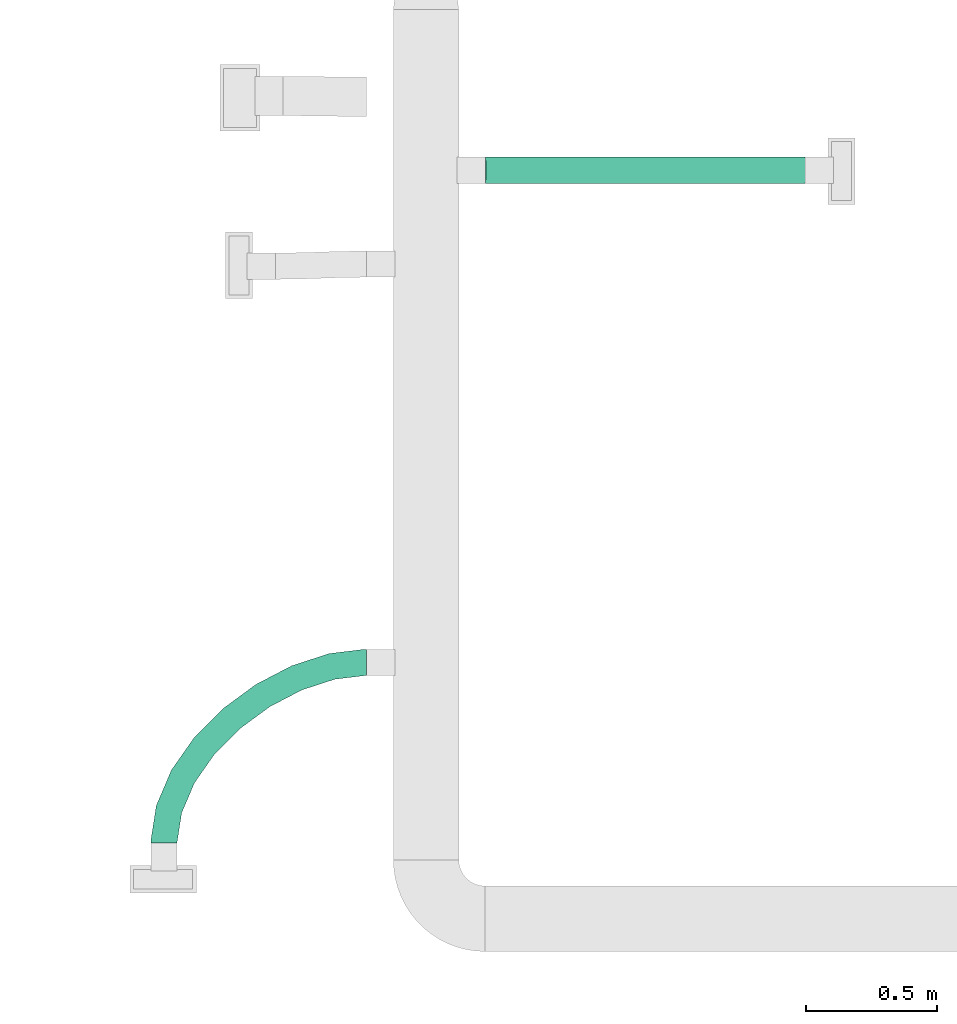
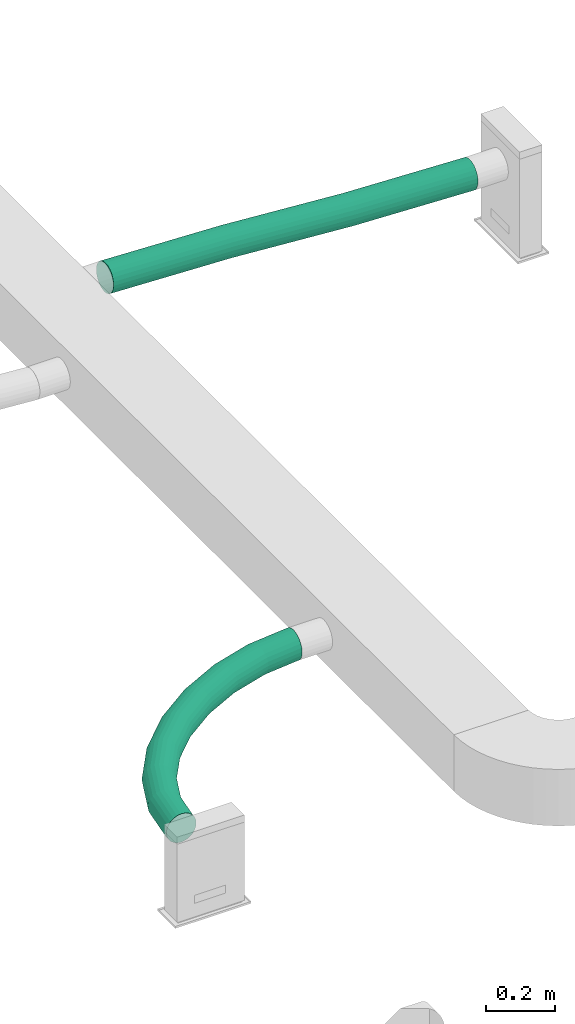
# One storey, part 35 of 60: 2 flow segments.
"""IFC2X3 building model written with IfcOpenShell, lengths in millimetres."""

from ifc_helpers import new_model, entity, si_unit, converted_unit, derived_unit, direction, frame, origin, place, context, subcontext, project, spatial, faceted_brep, type_object, element, save


model = new_model("IFC2X3")

# Units and contexts
model_context = context("Model", 3, precision=0.01, world=origin(), true_north=direction((6.123233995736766e-17, 1.0)))
body_context = subcontext(model_context, "Body", "Model", "MODEL_VIEW")
ifc_project = project(units=[si_unit("LENGTHUNIT", "METRE", prefix="MILLI"), converted_unit("PLANEANGLEUNIT", "DEGREE", entity("IfcPlaneAngleMeasure", 0.017453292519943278), si_unit("PLANEANGLEUNIT", "RADIAN"), dimensions=[0, 0, 0, 0, 0, 0, 0]), si_unit("AREAUNIT", "SQUARE_METRE"), derived_unit("THERMALTRANSMITTANCEUNIT", [(si_unit("MASSUNIT", "GRAM", prefix="KILO"), 1), (si_unit("THERMODYNAMICTEMPERATUREUNIT", "KELVIN"), -1), (si_unit("TIMEUNIT", "SECOND"), -3)])], contexts=[model_context])

# Site, building, storey
site_placement = place(None, origin())
site = spatial("IfcSite", under=ifc_project, at=site_placement, Name="Default", CompositionType="ELEMENT")
building_placement = place(site_placement, origin())
building = spatial("IfcBuilding", under=site, at=building_placement, Name="Praça Pedro II, 1301 - Centro (Sul), Teresina - PI, 64001-100", CompositionType="ELEMENT")
storey_placement = place(building_placement, frame((0.0, 0.0, 6040.0)))
storey = spatial("IfcBuildingStorey", under=building, at=storey_placement, Name="2PAV", CompositionType="ELEMENT", Elevation=6040.0)

# Flow segments
duct_segment_type = type_object("IfcDuctSegmentType", Name="Duto flexível redondo:Flexível - Redondo", PredefinedType="FLEXIBLESEGMENT")
flow_segment_1_placement = place(storey_placement, frame((9090.61255465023, -68330.46096681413, 2598.4591257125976)))
element("IfcFlowSegment", 1, at=flow_segment_1_placement, inside=storey, type_object=duct_segment_type, Name="Duto flexível redondo:Flexível - Redondo", ObjectType="Duto flexível redondo:Flexível - Redondo", context=body_context, shape_type="Brep", body=[
    faceted_brep([(38.65431998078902, 0.0, 40.79169459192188), (51.59527223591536, 0.0, 39.087985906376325), (64.53622449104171, 0.0, 40.79169459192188), (76.59527223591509, 0.0, 45.78671571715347), (86.95061129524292, 0.0, 53.73264684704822), (94.89654242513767, 0.0, 64.08798590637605), (99.89156355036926, 0.0, 76.14703365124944), (101.59527223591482, 0.0, 89.08798590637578), (99.89156355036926, 0.0, 102.02893816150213), (94.89654242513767, 0.0, 114.08798590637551), (86.95061129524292, 0.0, 124.44332496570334), (76.59527223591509, 0.0, 132.38925609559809), (64.53622449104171, 0.0, 137.3842772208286), (51.59527223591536, 0.0, 139.08798590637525), (38.65431998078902, 0.0, 137.3842772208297), (26.59527223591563, 0.0, 132.38925609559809), (16.239933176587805, 0.0, 124.44332496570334), (8.29400204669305, 0.0, 114.08798590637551), (3.298980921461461, 0.0, 102.02893816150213), (1.5952722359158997, 0.0, 89.08798590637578), (3.298980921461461, 0.0, 76.14703365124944), (8.29400204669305, 0.0, 64.08798590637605), (16.239933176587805, 0.0, 53.73264684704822), (26.59527223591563, 0.0, 45.78671571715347), (1.5952722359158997, 11.22350914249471, 89.08798590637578), (3.298980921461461, 11.005214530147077, 76.14703365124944), (8.29400204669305, 10.535998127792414, 64.08798590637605), (16.23993317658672, 9.847836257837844, 53.73264684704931), (26.595272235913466, 8.987626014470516, 45.78671571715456), (38.65431998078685, 8.01398930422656, 40.79169459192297), (51.59527223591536, 6.993277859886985, 39.087985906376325), (64.53622449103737, 5.995051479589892, 40.7916945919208), (76.59527223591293, 5.087337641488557, 45.78671571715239), (86.95061129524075, 4.331995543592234, 53.73264684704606), (99.89156355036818, 3.470435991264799, 76.14703365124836), (101.59527223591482, 3.422932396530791, 89.08798590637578), (94.89654242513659, 3.7805005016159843, 64.08798590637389), (94.89654242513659, 4.110443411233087, 114.0879859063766), (86.95061129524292, 4.7986052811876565, 124.44332496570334), (99.89156355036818, 3.6412270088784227, 102.02893816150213), (64.53622449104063, 6.632452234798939, 137.3842772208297), (51.59527223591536, 7.653163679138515, 139.08798590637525), (76.59527223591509, 5.658815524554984, 132.38925609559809), (38.65431998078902, 8.651390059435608, 137.3842772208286), (26.595272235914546, 9.559103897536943, 132.389256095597), (16.239933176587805, 10.314445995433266, 124.44332496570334), (8.29400204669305, 10.865941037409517, 114.08798590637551), (3.298980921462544, 11.1760055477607, 102.0289381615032), (825.2985682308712, 639.0350609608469, 53.87257660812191), (825.2985682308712, 640.1334271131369, 40.86625274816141), (825.2985682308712, 644.5606516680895, 28.587386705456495), (825.2985682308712, 652.0150265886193, 17.87276290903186), (825.2985682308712, 661.9885485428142, 9.452565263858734), (825.2985682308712, 673.8015384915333, 3.9006163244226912), (825.2985682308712, 686.6489606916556, 1.5952722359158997), (825.2985682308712, 699.6552845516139, 2.693638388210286), (825.2985682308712, 711.9341505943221, 7.120862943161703), (825.2985682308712, 722.6487743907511, 14.575237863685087), (825.2985682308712, 731.068972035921, 24.54875981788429), (825.2985682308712, 736.6209209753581, 36.36174976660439), (825.2985682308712, 738.9262650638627, 49.20917196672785), (825.2985682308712, 737.8278989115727, 62.21549582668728), (825.2985682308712, 733.4006743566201, 74.4943618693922), (825.2985682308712, 725.9462994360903, 85.2089856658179), (825.2985682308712, 715.9727774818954, 93.62918331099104), (825.2985682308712, 704.1597875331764, 99.18113225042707), (825.2985682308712, 691.312365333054, 101.48647633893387), (825.2985682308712, 678.3060414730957, 100.38811018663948), (825.2985682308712, 666.0271754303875, 95.96088563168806), (825.2985682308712, 655.3125516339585, 88.50651071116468), (825.2985682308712, 646.8923539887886, 78.53298875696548), (825.2985682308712, 641.3404050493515, 66.71999880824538), (22.237307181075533, 142.72360230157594, 87.34178346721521), (23.854993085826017, 141.957299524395, 74.40810826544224), (28.66283132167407, 140.29563443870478, 62.364895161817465), (36.33317565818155, 137.85184677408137, 52.032869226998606), (46.34330480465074, 134.79247662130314, 44.116140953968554), (58.01104500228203, 131.32601500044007, 39.15422229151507), (70.5412590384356, 127.6886955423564, 37.485259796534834), (83.08003353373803, 124.12839555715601, 39.22299050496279), (94.7728717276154, 120.8877436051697, 44.24899094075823), (104.82292602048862, 118.18758476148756, 52.220747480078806), (112.54530182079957, 116.21193038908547, 62.59499808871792), (117.41373197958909, 115.09541806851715, 74.66475473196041), (119.09644102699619, 114.91413626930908, 87.60748344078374), (117.47875512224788, 115.68043904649, 100.54115864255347), (112.6709168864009, 117.34210413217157, 112.5843717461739), (105.00057254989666, 119.78589179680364, 122.91639768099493), (83.32270320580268, 126.31172357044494, 135.79504461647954), (70.79248916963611, 129.94904302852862, 137.46400711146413), (94.99044340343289, 122.84526194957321, 130.83312595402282), (58.253714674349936, 133.50934301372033, 135.7262764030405), (46.56087648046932, 136.74999496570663, 130.70027596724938), (36.510822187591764, 139.45015380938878, 122.72851942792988), (28.788446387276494, 141.42580818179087, 112.35426881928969), (23.920016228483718, 142.5423205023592, 100.28451217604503), (79.93829419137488, 277.82248174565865, 82.73069273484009), (81.32144480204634, 276.50704702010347, 69.81576008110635), (85.60568704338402, 273.6194543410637, 57.81438939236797), (92.4990568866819, 269.35648837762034, 47.54445424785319), (101.53178256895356, 264.0086632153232, 39.70583375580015), (112.08829876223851, 257.9404243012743, 34.83271694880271), (123.44919633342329, 251.56531208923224, 33.25719868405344), (134.84024888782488, 245.31777994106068, 35.08664792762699), (145.48517501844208, 239.623586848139, 40.19639073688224), (154.65854060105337, 234.87078265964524, 48.23820658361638), (161.73519593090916, 231.38326312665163, 58.66405900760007), (166.23287864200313, 229.39869694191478, 70.76344339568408), (167.8450790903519, 229.05232901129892, 83.71180669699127), (166.4619284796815, 230.3677637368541, 96.62673935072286), (162.17768623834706, 233.25535641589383, 108.6281100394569), (155.28431639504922, 237.5183223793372, 118.89804518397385), (135.695074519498, 248.9343864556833, 131.6097824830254), (124.33417694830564, 255.3094986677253, 133.18530074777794), (146.25159071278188, 242.86614754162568, 126.73666567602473), (112.94312439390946, 261.5570308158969, 131.35585150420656), (102.29819826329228, 267.2512239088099, 126.24610869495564), (93.12483268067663, 272.00402809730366, 118.2042928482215), (86.04817735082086, 275.49154763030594, 107.77844042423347), (81.55049463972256, 277.4761138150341, 95.67905603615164), (166.75936705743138, 402.0052693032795, 76.31625877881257), (167.88065107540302, 400.315278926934, 63.420673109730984), (171.55096059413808, 396.5495598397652, 51.464660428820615), (177.52017008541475, 390.96473957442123, 41.26300324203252), (185.38148778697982, 383.9414144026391, 33.51092762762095), (194.59917788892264, 375.9582123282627, 28.736724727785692), (204.54507004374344, 367.5591753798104, 27.265748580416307), (214.54136813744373, 359.31668404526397, 29.198243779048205), (223.906840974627, 351.79245048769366, 34.40251396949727), (232.00324705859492, 345.4992387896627, 42.52389673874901), (238.27882969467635, 340.86592092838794, 53.008933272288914), (242.3059182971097, 338.2082498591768, 65.14308565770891), (243.81007343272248, 337.7073414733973, 78.09943146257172), (242.68878941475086, 339.3973318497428, 90.9950171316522), (239.01847989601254, 343.1630509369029, 102.9510298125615), (233.04927040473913, 348.7478712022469, 113.15268699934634), (215.97026260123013, 363.7543984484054, 125.6789655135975), (206.02437044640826, 372.1534353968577, 127.14994166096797), (225.18795270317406, 355.7711963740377, 120.90476261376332), (196.02807235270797, 380.39592673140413, 125.21744646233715), (186.66259951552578, 387.9201602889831, 120.01317627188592), (178.56619343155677, 394.2133719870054, 111.89179350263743), (172.29061079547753, 398.8466898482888, 101.40675696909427), (168.26352219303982, 401.5043609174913, 89.27260458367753), (276.0942744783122, 512.0196609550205, 69.03958305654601), (276.96878112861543, 510.08135956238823, 56.16042140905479), (280.0166887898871, 505.6893705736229, 44.24583206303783), (285.0302875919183, 499.14300078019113, 34.10777459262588), (291.6679090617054, 490.888374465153, 26.437140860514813), (299.47721026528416, 481.4880307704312, 21.75667187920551), (307.92600023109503, 471.58258758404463, 20.385333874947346), (316.43850788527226, 461.8470844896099, 22.416581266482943), (324.4346198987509, 452.94497993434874, 27.711987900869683), (331.369414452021, 445.48293763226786, 35.91068056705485), (336.7702967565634, 439.96948343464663, 46.45393190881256), (340.2692056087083, 436.7803501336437, 58.62323677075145), (341.6276961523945, 436.1328718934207, 71.58927713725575), (340.7531895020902, 438.07117328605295, 84.46843878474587), (337.7052818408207, 442.4631622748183, 96.3830281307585), (332.6916830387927, 449.00953206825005, 106.52108560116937), (318.24476036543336, 466.66450207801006, 118.87218831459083), (309.79597039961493, 476.56994526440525, 120.24352631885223), (326.0540615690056, 457.2641583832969, 114.19171933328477), (301.2834627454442, 486.3054483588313, 118.21227892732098), (293.2873507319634, 495.20755291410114, 112.91687229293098), (286.35255617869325, 502.669595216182, 104.71817962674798), (280.9516738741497, 508.18304941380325, 94.17492828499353), (277.4527650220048, 511.3721827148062, 82.00562342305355), (402.0654049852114, 604.5952495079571, 61.7895320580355), (402.7129892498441, 602.4901839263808, 48.923430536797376), (405.1271492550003, 597.6324567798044, 37.04531544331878), (409.1433639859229, 590.3531141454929, 26.96466069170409), (414.48793504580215, 581.1482311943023, 19.368446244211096), (420.7966387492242, 570.6451054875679, 14.774341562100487), (427.6395473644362, 559.5595076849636, 13.495427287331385), (434.550327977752, 548.646902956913, 15.618859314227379), (441.0580223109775, 538.6509672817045, 20.999929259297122), (446.71914174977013, 530.2529071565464, 29.2719260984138), (451.1478903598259, 524.0250365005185, 39.871126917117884), (454.04245624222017, 520.3917744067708, 52.075213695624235), (455.20557951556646, 519.6007216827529, 65.05249808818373), (454.5579952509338, 521.7057872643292, 77.91859960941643), (452.14383524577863, 526.5635144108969, 89.79671470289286), (448.1276205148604, 533.8428570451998, 99.8773694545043), (436.4743457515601, 553.5508657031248, 112.06768858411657), (429.63143713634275, 564.6364635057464, 113.34660285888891), (442.7830494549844, 543.0477399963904, 107.47358390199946), (422.7206565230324, 575.5490682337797, 111.22317083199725), (416.2129621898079, 585.5450039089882, 105.84210088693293), (410.5518427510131, 593.943064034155, 97.570104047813), (406.1230941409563, 600.1709346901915, 86.97090322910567), (403.2285282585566, 603.8041967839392, 74.76681645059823), (539.1465923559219, 676.120587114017, 55.447976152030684), (539.5797981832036, 673.9036645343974, 42.59179205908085), (541.3107838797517, 668.6894751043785, 30.745281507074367), (544.221585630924, 660.8333572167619, 20.71576461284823), (548.1138371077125, 650.8706923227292, 13.18673637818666), (552.7222878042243, 639.4804195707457, 8.671287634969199), (557.7328794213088, 627.4387672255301, 7.477138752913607), (562.8041484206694, 615.5663539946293, 9.68566900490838), (567.5904962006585, 604.672265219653, 15.146370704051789), (571.7657410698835, 595.4989150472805, 23.487106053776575), (575.0453469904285, 588.6714521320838, 34.13946772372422), (577.2058142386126, 584.6551567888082, 46.37751486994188), (578.0999105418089, 583.7237329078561, 59.36724480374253), (577.6667047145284, 585.9406554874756, 72.22342889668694), (575.9357190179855, 591.1548449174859, 84.0699394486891), (573.0249172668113, 599.0109628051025, 94.09945634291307), (564.5242150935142, 620.3639004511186, 106.14393332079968), (559.5136234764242, 632.4055527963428, 107.33808220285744), (569.1326657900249, 608.9736276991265, 101.6284845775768), (554.4423544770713, 644.2779660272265, 105.12955195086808), (549.6560066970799, 655.1720548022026, 99.668850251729), (545.4807618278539, 664.3454049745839, 91.32811490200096), (542.2011559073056, 671.1728678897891, 80.67575323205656), (540.0406886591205, 675.1891632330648, 68.43770608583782), (681.9515497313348, 722.5397735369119, 50.922404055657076), (682.1743520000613, 720.2544586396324, 38.07288777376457), (683.1239510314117, 714.7862770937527, 26.251139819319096), (684.735633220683, 706.5078764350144, 16.26279277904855), (686.8995650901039, 695.9834159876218, 8.788535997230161), (689.4682782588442, 683.9301203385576, 4.337727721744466), (692.2667191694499, 671.1694016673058, 3.213683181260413), (695.1041786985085, 658.570881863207, 5.493004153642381), (697.7872886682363, 646.9931292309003, 11.020358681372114), (700.1331995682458, 637.2251484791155, 19.41906668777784), (701.9820414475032, 629.9326113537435, 30.11677010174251), (703.2078187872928, 625.6124922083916, 42.38443811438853), (703.7269968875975, 624.5592000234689, 55.386049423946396), (703.5041946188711, 626.8445149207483, 68.23556570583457), (702.5545955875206, 632.3126964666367, 80.05731366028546), (700.9429133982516, 640.5910971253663, 90.0456607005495), (696.2102683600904, 663.1688532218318, 101.97072575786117), (693.4118274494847, 675.9295718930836, 103.09477029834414), (698.7789815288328, 651.1155575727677, 97.5199174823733), (690.5743679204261, 688.5280916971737, 100.81544932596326), (687.891257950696, 700.1058443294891, 95.28809479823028), (685.5453470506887, 709.8738250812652, 86.88938679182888), (683.6965051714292, 717.166362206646, 76.19168337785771), (682.4707278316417, 721.4864813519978, 63.92401536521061), (816.4667778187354, 738.9262650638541, 49.20917196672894), (816.5251622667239, 736.6209209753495, 36.36174976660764), (816.7871223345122, 731.0689720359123, 24.548759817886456), (817.2348058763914, 722.6487743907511, 14.575237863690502), (817.8377039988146, 711.9341505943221, 7.120862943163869), (818.5547301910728, 699.6552845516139, 2.693638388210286), (819.3370203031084, 686.6489606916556, 1.5952722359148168), (820.1312625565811, 673.8015384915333, 3.9006163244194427), (820.8833306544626, 661.9885485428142, 9.452565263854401), (821.5419723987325, 652.0150265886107, 17.87276290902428), (822.0623024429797, 644.5606516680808, 28.587386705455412), (822.4088611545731, 640.1334271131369, 40.86625274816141), (822.5580311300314, 639.0350609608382, 53.87257660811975), (822.499646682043, 641.3404050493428, 66.71999880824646), (822.2376866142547, 646.8923539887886, 78.53298875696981), (821.7900030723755, 655.3125516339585, 88.50651071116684), (820.4700787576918, 678.3060414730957, 100.38811018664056), (819.6877886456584, 691.3123653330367, 101.48647633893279), (821.1871049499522, 666.0271754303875, 95.96088563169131), (818.8935463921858, 704.1597875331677, 99.18113225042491), (818.1414782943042, 715.9727774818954, 93.62918331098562), (817.4828365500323, 725.9462994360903, 85.20898566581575), (816.962506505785, 733.4006743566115, 74.49436186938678), (816.6159477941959, 737.827898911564, 62.215495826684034)], [[[0, 1, 2, 3, 4, 5, 6, 7, 8, 9, 10, 11, 12, 13, 14, 15, 16, 17, 18, 19, 20, 21, 22, 23]], [[19, 24, 25, 20]], [[20, 25, 26, 21]], [[21, 26, 27, 22]], [[23, 28, 29, 0]], [[0, 29, 30, 1]], [[22, 27, 28, 23]], [[31, 32, 3, 2]], [[30, 31, 2, 1]], [[3, 32, 33, 4]], [[34, 35, 7, 6]], [[36, 34, 6, 5]], [[4, 33, 36, 5]], [[9, 37, 38, 10]], [[39, 37, 9, 8]], [[7, 35, 39, 8]], [[40, 41, 13, 12]], [[42, 40, 12, 11]], [[38, 42, 11, 10]], [[15, 14, 43, 44]], [[16, 15, 44, 45]], [[13, 41, 43, 14]], [[18, 17, 46, 47]], [[19, 18, 47, 24]], [[45, 46, 17, 16]], [[48, 49, 50, 51, 52, 53, 54, 55, 56, 57, 58, 59, 60, 61, 62, 63, 64, 65, 66, 67, 68, 69, 70, 71]], [[24, 72, 73, 25]], [[25, 73, 74, 26]], [[26, 74, 75, 27]], [[27, 75, 76, 28]], [[28, 76, 77, 29]], [[78, 30, 29, 77]], [[79, 80, 32, 31]], [[78, 79, 31, 30]], [[81, 33, 32, 80]], [[82, 83, 34, 36]], [[82, 36, 33, 81]], [[84, 35, 34, 83]], [[85, 86, 37, 39]], [[84, 85, 39, 35]], [[38, 37, 86, 87]], [[88, 89, 41, 40]], [[90, 88, 40, 42]], [[87, 90, 42, 38]], [[43, 41, 89, 91]], [[44, 43, 91, 92]], [[45, 44, 92, 93]], [[47, 46, 94, 95]], [[24, 47, 95, 72]], [[93, 94, 46, 45]], [[73, 72, 96, 97]], [[74, 73, 97, 98]], [[98, 99, 75, 74]], [[76, 75, 99, 100]], [[77, 76, 100, 101]], [[78, 77, 101, 102]], [[103, 104, 80, 79]], [[102, 103, 79, 78]], [[81, 80, 104, 105]], [[106, 107, 83, 82]], [[105, 106, 82, 81]], [[108, 84, 83, 107]], [[109, 110, 86, 85]], [[108, 109, 85, 84]], [[111, 87, 86, 110]], [[112, 113, 89, 88]], [[114, 112, 88, 90]], [[114, 90, 87, 111]], [[89, 113, 115, 91]], [[91, 115, 116, 92]], [[117, 93, 92, 116]], [[94, 118, 119, 95]], [[72, 95, 119, 96]], [[118, 94, 93, 117]], [[97, 96, 120, 121]], [[98, 97, 121, 122]], [[122, 123, 99, 98]], [[100, 99, 123, 124]], [[101, 100, 124, 125]], [[102, 101, 125, 126]], [[127, 128, 104, 103]], [[126, 127, 103, 102]], [[105, 104, 128, 129]], [[130, 131, 107, 106]], [[129, 130, 106, 105]], [[132, 108, 107, 131]], [[133, 134, 110, 109]], [[132, 133, 109, 108]], [[135, 111, 110, 134]], [[136, 137, 113, 112]], [[138, 136, 112, 114]], [[138, 114, 111, 135]], [[113, 137, 139, 115]], [[115, 139, 140, 116]], [[141, 117, 116, 140]], [[118, 142, 143, 119]], [[96, 119, 143, 120]], [[142, 118, 117, 141]], [[121, 120, 144, 145]], [[122, 121, 145, 146]], [[146, 147, 123, 122]], [[124, 123, 147, 148]], [[125, 124, 148, 149]], [[126, 125, 149, 150]], [[151, 152, 128, 127]], [[150, 151, 127, 126]], [[129, 128, 152, 153]], [[154, 155, 131, 130]], [[153, 154, 130, 129]], [[156, 132, 131, 155]], [[157, 158, 134, 133]], [[156, 157, 133, 132]], [[159, 135, 134, 158]], [[160, 161, 137, 136]], [[162, 160, 136, 138]], [[162, 138, 135, 159]], [[137, 161, 163, 139]], [[139, 163, 164, 140]], [[165, 141, 140, 164]], [[142, 166, 167, 143]], [[120, 143, 167, 144]], [[166, 142, 141, 165]], [[145, 144, 168, 169]], [[146, 145, 169, 170]], [[170, 171, 147, 146]], [[148, 147, 171, 172]], [[149, 148, 172, 173]], [[150, 149, 173, 174]], [[175, 176, 152, 151]], [[174, 175, 151, 150]], [[177, 153, 152, 176]], [[178, 179, 155, 154]], [[178, 154, 153, 177]], [[180, 156, 155, 179]], [[181, 182, 158, 157]], [[180, 181, 157, 156]], [[183, 159, 158, 182]], [[184, 185, 161, 160]], [[186, 184, 160, 162]], [[186, 162, 159, 183]], [[161, 185, 187, 163]], [[163, 187, 188, 164]], [[165, 164, 188, 189]], [[167, 166, 190, 191]], [[144, 167, 191, 168]], [[189, 190, 166, 165]], [[169, 168, 192, 193]], [[169, 193, 194, 170]], [[170, 194, 195, 171]], [[171, 195, 196, 172]], [[172, 196, 197, 173]], [[198, 174, 173, 197]], [[199, 200, 176, 175]], [[198, 199, 175, 174]], [[201, 177, 176, 200]], [[202, 203, 179, 178]], [[202, 178, 177, 201]], [[204, 180, 179, 203]], [[205, 206, 182, 181]], [[204, 205, 181, 180]], [[183, 182, 206, 207]], [[208, 209, 185, 184]], [[210, 208, 184, 186]], [[207, 210, 186, 183]], [[187, 185, 209, 211]], [[188, 187, 211, 212]], [[189, 188, 212, 213]], [[191, 190, 214, 215]], [[168, 191, 215, 192]], [[213, 214, 190, 189]], [[193, 192, 216, 217]], [[193, 217, 218, 194]], [[194, 218, 219, 195]], [[195, 219, 220, 196]], [[196, 220, 221, 197]], [[222, 198, 197, 221]], [[223, 224, 200, 199]], [[222, 223, 199, 198]], [[225, 201, 200, 224]], [[226, 227, 203, 202]], [[226, 202, 201, 225]], [[228, 204, 203, 227]], [[229, 230, 206, 205]], [[228, 229, 205, 204]], [[207, 206, 230, 231]], [[232, 233, 209, 208]], [[234, 232, 208, 210]], [[231, 234, 210, 207]], [[211, 209, 233, 235]], [[212, 211, 235, 236]], [[213, 212, 236, 237]], [[215, 214, 238, 239]], [[192, 215, 239, 216]], [[237, 238, 214, 213]], [[217, 216, 240, 241]], [[218, 217, 241, 242]], [[242, 243, 219, 218]], [[220, 219, 243, 244]], [[221, 220, 244, 245]], [[222, 221, 245, 246]], [[247, 248, 224, 223]], [[246, 247, 223, 222]], [[225, 224, 248, 249]], [[250, 251, 227, 226]], [[249, 250, 226, 225]], [[228, 227, 251, 252]], [[253, 254, 230, 229]], [[252, 253, 229, 228]], [[255, 231, 230, 254]], [[256, 257, 233, 232]], [[258, 256, 232, 234]], [[258, 234, 231, 255]], [[233, 257, 259, 235]], [[235, 259, 260, 236]], [[261, 237, 236, 260]], [[238, 262, 263, 239]], [[239, 263, 240, 216]], [[262, 238, 237, 261]], [[241, 240, 60, 59]], [[242, 241, 59, 58]], [[243, 242, 58, 57]], [[245, 244, 56, 55]], [[246, 245, 55, 54]], [[57, 56, 244, 243]], [[247, 246, 54, 53]], [[248, 247, 53, 52]], [[249, 248, 52, 51]], [[251, 250, 50, 49]], [[252, 251, 49, 48]], [[249, 51, 50, 250]], [[252, 48, 71, 253]], [[253, 71, 70, 254]], [[254, 70, 69, 255]], [[258, 68, 67, 256]], [[256, 67, 66, 257]], [[258, 255, 69, 68]], [[257, 66, 65, 259]], [[259, 65, 64, 260]], [[260, 64, 63, 261]], [[262, 62, 61, 263]], [[263, 61, 60, 240]], [[261, 63, 62, 262]]]),
])
flow_segment_2_placement = place(storey_placement, frame((10365.579176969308, -65814.31979867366, 2537.608951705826)))
element("IfcFlowSegment", 2, at=flow_segment_2_placement, inside=storey, type_object=duct_segment_type, Name="Duto flexível redondo:Flexível - Redondo", ObjectType="Duto flexível redondo:Flexível - Redondo", context=body_context, shape_type="Brep", body=[
    faceted_brep([(1.5952722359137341, 51.595272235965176, 62.42856942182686), (1.6612627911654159, 38.65431998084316, 64.13099960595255), (1.8547373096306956, 26.595272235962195, 69.12227235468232), (2.16251082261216, 16.239933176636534, 77.06224067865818), (2.5636090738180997, 8.294002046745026, 87.40980885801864), (3.030697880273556, 3.2989809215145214, 99.4598072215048), (3.5319459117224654, 1.5952722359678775, 112.39104829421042), (4.0331939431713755, 3.2989809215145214, 125.32228936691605), (4.500282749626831, 8.294002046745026, 137.3722877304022), (4.901381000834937, 16.239933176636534, 147.71985590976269), (5.209154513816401, 26.595272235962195, 155.65982423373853), (5.402629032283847, 38.65431998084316, 160.65109698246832), (5.468619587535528, 51.595272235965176, 162.353527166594), (5.402629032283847, 64.53622449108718, 160.65109698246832), (5.209154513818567, 76.59527223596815, 155.65982423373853), (4.901381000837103, 86.95061129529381, 147.71985590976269), (4.500282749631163, 94.89654242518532, 137.3722877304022), (4.033193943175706, 99.89156355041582, 125.32228936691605), (3.531945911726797, 101.59527223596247, 112.39104829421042), (3.0306978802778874, 99.89156355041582, 99.4598072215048), (2.5636090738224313, 94.89654242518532, 87.40980885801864), (2.1625108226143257, 86.95061129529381, 77.06224067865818), (1.8547373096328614, 76.59527223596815, 69.12227235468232), (1.6612627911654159, 64.53622449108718, 64.13099960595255), (409.6931682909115, 99.89156355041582, 83.69652807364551), (409.0261528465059, 94.89654242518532, 71.65427937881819), (410.40896403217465, 101.59527223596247, 96.61945272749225), (408.4533736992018, 86.95061129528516, 61.31336599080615), (408.0138648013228, 76.59527223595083, 53.37850406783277), (407.7375779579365, 64.53622449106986, 48.390441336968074), (407.6433416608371, 51.595272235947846, 46.68910603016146), (407.7375779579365, 38.65431998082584, 48.39044133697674), (408.01386480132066, 26.59527223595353, 53.37850406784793), (408.45337369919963, 16.23993317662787, 61.31336599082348), (409.6931682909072, 3.2989809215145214, 83.69652807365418), (410.40896403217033, 1.5952722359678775, 96.61945272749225), (409.02615284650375, 8.294002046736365, 71.65427937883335), (411.1247597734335, 3.2989809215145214, 109.54237738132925), (411.7917752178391, 8.294002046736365, 121.58462607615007), (412.3645543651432, 16.23993317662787, 131.92553946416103), (412.80406326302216, 26.59527223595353, 139.86040138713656), (413.0803501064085, 38.65431998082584, 144.84846411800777), (413.1745864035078, 51.595272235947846, 146.54979942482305), (413.0803501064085, 64.53622449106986, 144.84846411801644), (412.8040632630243, 76.59527223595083, 139.86040138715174), (412.36455436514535, 86.95061129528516, 131.92553946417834), (411.79177521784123, 94.89654242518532, 121.58462607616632), (411.1247597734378, 99.89156355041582, 109.54237738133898), (1221.9555683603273, 64.53622449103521, 3.297702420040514), (1222.149042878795, 76.59527223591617, 8.288975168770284), (1222.4568163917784, 86.95061129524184, 16.228943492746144), (1222.8579146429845, 94.89654242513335, 26.5765116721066), (1223.32500344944, 99.89156355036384, 38.62651003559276), (1223.8262514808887, 101.59527223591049, 51.55775110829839), (1224.3274995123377, 99.89156355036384, 64.48899218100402), (1224.794588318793, 94.89654242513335, 76.53899054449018), (1225.195686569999, 86.95061129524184, 86.88655872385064), (1225.5034600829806, 76.59527223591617, 94.82652704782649), (1225.6969346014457, 64.53622449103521, 99.81779979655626), (1225.7629251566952, 51.59527223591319, 101.52022998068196), (1225.6969346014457, 38.654319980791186, 99.81779979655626), (1225.5034600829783, 26.595272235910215, 94.82652704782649), (1225.1956865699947, 16.239933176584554, 86.88655872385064), (1224.7945883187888, 8.29400204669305, 76.53899054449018), (1224.3274995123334, 3.298980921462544, 64.48899218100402), (1223.8262514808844, 1.5952722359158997, 51.55775110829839), (1223.3250034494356, 3.298980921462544, 38.62651003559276), (1222.8579146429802, 8.29400204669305, 26.5765116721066), (1222.456816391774, 16.239933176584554, 16.228943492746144), (1222.1490428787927, 26.595272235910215, 8.288975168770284), (1221.9555683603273, 38.654319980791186, 3.297702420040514), (1221.8895778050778, 51.59527223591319, 1.5952722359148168), (816.9492333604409, 101.59527223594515, 67.32934667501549), (816.2334376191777, 99.8915635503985, 54.406422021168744), (815.5664221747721, 94.896542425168, 42.36417332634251), (814.993643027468, 86.95061129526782, 32.02325993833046), (814.5541341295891, 76.5952722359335, 24.088398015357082), (814.2778472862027, 64.53622449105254, 19.10033528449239), (814.1836109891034, 51.59527223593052, 17.398999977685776), (814.2778472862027, 38.65431998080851, 19.100335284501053), (814.5541341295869, 26.595272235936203, 24.088398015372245), (814.9936430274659, 16.239933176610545, 32.02325993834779), (815.56642217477, 8.294002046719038, 42.364173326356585), (816.2334376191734, 3.2989809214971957, 54.406422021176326), (816.9492333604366, 1.5952722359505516, 67.32934667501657), (817.6650291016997, 3.2989809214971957, 80.25227132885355), (818.3320445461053, 8.294002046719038, 92.29452002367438), (818.9048236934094, 16.239933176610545, 102.63543341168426), (819.3443325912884, 26.595272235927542, 110.5702953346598), (819.6206194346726, 38.65431998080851, 115.55835806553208), (819.7148557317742, 51.59527223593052, 117.25969337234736), (819.6206194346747, 64.53622449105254, 115.55835806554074), (819.3443325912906, 76.5952722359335, 110.57029533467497), (818.9048236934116, 86.95061129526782, 102.63543341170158), (817.665029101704, 99.8915635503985, 80.2522713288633), (818.3320445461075, 94.896542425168, 92.29452002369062)], [[[0, 1, 2, 3, 4, 5, 6, 7, 8, 9, 10, 11, 12, 13, 14, 15, 16, 17, 18, 19, 20, 21, 22, 23]], [[24, 25, 20, 19]], [[26, 24, 19, 18]], [[27, 21, 20, 25]], [[28, 29, 23, 22]], [[28, 22, 21, 27]], [[30, 0, 23, 29]], [[31, 32, 2, 1]], [[30, 31, 1, 0]], [[32, 33, 3, 2]], [[34, 35, 6, 5]], [[36, 34, 5, 4]], [[33, 36, 4, 3]], [[7, 6, 35, 37]], [[8, 7, 37, 38]], [[38, 39, 9, 8]], [[11, 10, 40, 41]], [[12, 11, 41, 42]], [[39, 40, 10, 9]], [[12, 42, 43, 13]], [[13, 43, 44, 14]], [[14, 44, 45, 15]], [[15, 45, 46, 16]], [[16, 46, 47, 17]], [[26, 18, 17, 47]], [[48, 49, 50, 51, 52, 53, 54, 55, 56, 57, 58, 59, 60, 61, 62, 63, 64, 65, 66, 67, 68, 69, 70, 71]], [[24, 26, 72, 73]], [[25, 24, 73, 74]], [[27, 25, 74, 75]], [[29, 28, 76, 77]], [[30, 29, 77, 78]], [[75, 76, 28, 27]], [[30, 78, 79, 31]], [[31, 79, 80, 32]], [[81, 33, 32, 80]], [[33, 81, 82, 36]], [[36, 82, 83, 34]], [[84, 35, 34, 83]], [[85, 86, 38, 37]], [[84, 85, 37, 35]], [[87, 39, 38, 86]], [[88, 89, 41, 40]], [[88, 40, 39, 87]], [[90, 42, 41, 89]], [[91, 92, 44, 43]], [[90, 91, 43, 42]], [[92, 93, 45, 44]], [[94, 72, 26, 47]], [[95, 94, 47, 46]], [[93, 95, 46, 45]], [[72, 53, 52, 73]], [[73, 52, 51, 74]], [[50, 75, 74, 51]], [[76, 49, 48, 77]], [[77, 48, 71, 78]], [[49, 76, 75, 50]], [[79, 78, 71, 70]], [[80, 79, 70, 69]], [[69, 68, 81, 80]], [[83, 82, 67, 66]], [[84, 83, 66, 65]], [[68, 67, 82, 81]], [[85, 84, 65, 64]], [[86, 85, 64, 63]], [[87, 86, 63, 62]], [[89, 88, 61, 60]], [[90, 89, 60, 59]], [[62, 61, 88, 87]], [[90, 59, 58, 91]], [[91, 58, 57, 92]], [[56, 93, 92, 57]], [[95, 55, 54, 94]], [[94, 54, 53, 72]], [[55, 95, 93, 56]]]),
])

save(model, "model.ifc")
